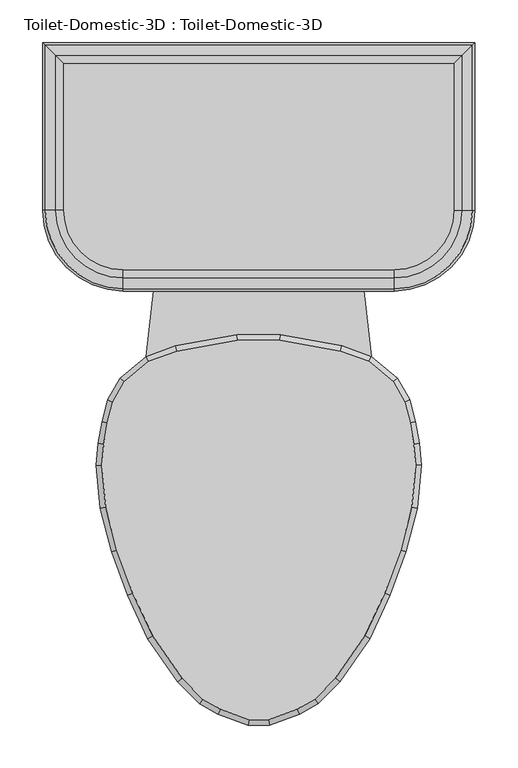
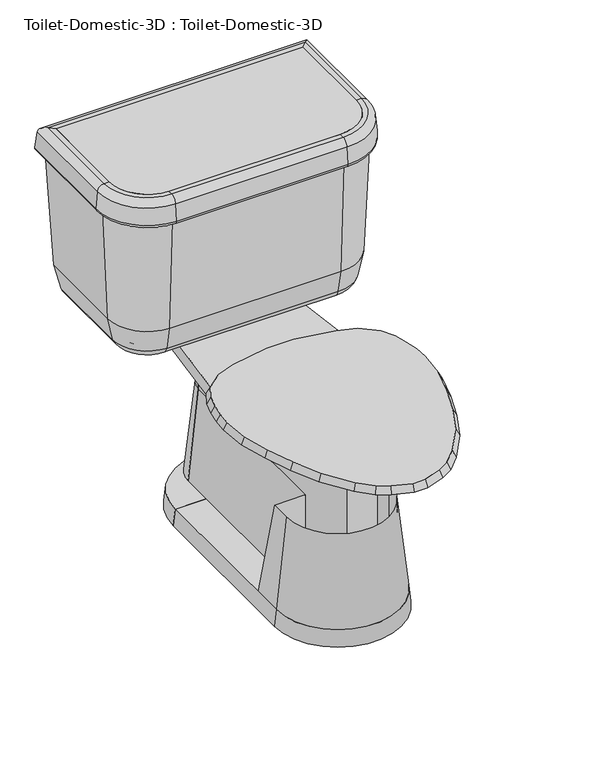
"""IFC4 building model written with IfcOpenShell, lengths in millimetres: flow terminal geometry, Toilet-Domestic-3D : Toilet-Domestic-3D."""

from ifc_helpers import new_model, si_unit, point, frame, frame_2d, origin, place, context, project, spatial, polyline, circle_curve, ellipse_curve, trimmed, segment, composite_curve, outline, extrude, faceted_brep, source, transform, mapped, element, save
from ifc_brep_helpers import plane_surface, cylinder_surface, revolved_surface, advanced_brep


def toilet_domestic_3d_toilet_domestic_3d_29795b61(model_context):
    return source(origin(), model_context, "Body", "SolidModel", [
        advanced_brep(
        [(-117.7636364, 285.75, 0.0), (-38.1, 285.75, 0.0), (-38.1, 285.75, 31.75), (-114.3, 285.75, 31.75), (117.7636364, 285.75, 0.0), (114.3, 285.75, 31.75), (38.1, 285.75, 31.75), (38.1, 285.75, 0.0)],
        [
            (0, 1),
            (1, 2),
            (2, 3),
            (3, 0),
            (4, 5),
            (5, 6),
            (6, 7),
            (7, 4),
            (7, 1, circle_curve(frame((0.0, 285.75, 0.0), z_axis=(0.0, 0.0, 1.0), x_axis=(-1.0, 0.0, 0.0)), 38.1)),
            (0, 4, circle_curve(frame((0.0, 285.75, 0.0), z_axis=(0.0, 0.0, -1.0), x_axis=(-1.0, 0.0, 0.0)), 117.7636364)),
            (6, 2, circle_curve(frame((0.0, 285.75, 31.75), z_axis=(0.0, 0.0, 1.0), x_axis=(-1.0, 0.0, 0.0)), 38.1)),
            (5, 3, circle_curve(frame((0.0, 285.75, 31.75), z_axis=(0.0, 0.0, 1.0), x_axis=(-1.0, 0.0, 0.0)), 114.3)),
        ],
        [
            plane_surface(frame((0.0, 285.75, -304.8), z_axis=(0.0, -1.0, 0.0), x_axis=(-1.0, 0.0, 0.0))),
            plane_surface(frame((0.0, 285.75, -304.8), z_axis=(0.0, -1.0, 0.0), x_axis=(1.0, 0.0, 0.0))),
            plane_surface(frame((0.0, 285.75, 0.0), z_axis=(0.0, 0.0, -1.0), x_axis=(-1.0, 0.0, 0.0))),
            revolved_surface(polyline([(-38.1, 285.75, 0.0), (-38.1, 285.75, 31.75)]), (0.0, 285.75, -304.8), (0.0, 0.0, -1.0)),
            plane_surface(frame((0.0, 285.75, 31.75), z_axis=(0.0, 0.0, 1.0), x_axis=(-1.0, 0.0, 0.0))),
            revolved_surface(polyline([(-114.3, 285.75, 31.75), (-117.7636364, 285.75, 0.0)]), (0.0, 285.75, -304.8), (0.0, 0.0, -1.0)),
        ],
        [
            (0, [[1, 2, 3, 4]]),
            (1, [[5, 6, 7, 8]]),
            (2, [[9, -1, 10, -8]]),
            (3, [[11, -2, -9, -7]]),
            (4, [[12, -3, -11, -6]]),
            (5, [[-10, -4, -12, -5]]),
        ],
    ),
        advanced_brep(
        [(-38.1, 342.9, 206.375), (-57.15, 342.9, 31.75), (-38.1, 342.9, 31.75), (38.1, 342.9, 206.375), (38.1, 342.9, 31.75), (57.15, 342.9, 31.75)],
        [
            (0, 1),
            (1, 2),
            (2, 0),
            (3, 4),
            (4, 5),
            (5, 3),
            (5, 1, circle_curve(frame((0.0, 342.9, 31.75), z_axis=(0.0, 0.0, 1.0), x_axis=(-1.0, 0.0, 0.0)), 57.15)),
            (0, 3, circle_curve(frame((0.0, 342.9, 206.375), z_axis=(0.0, 0.0, -1.0), x_axis=(-1.0, 0.0, 0.0)), 38.1)),
            (4, 2, circle_curve(frame((0.0, 342.9, 31.75), z_axis=(0.0, 0.0, 1.0), x_axis=(-1.0, 0.0, 0.0)), 38.1)),
        ],
        [
            plane_surface(frame((0.0, 342.9, 31.75), z_axis=(0.0, -1.0, 0.0), x_axis=(-1.0, 0.0, 0.0))),
            plane_surface(frame((0.0, 342.9, 31.75), z_axis=(0.0, -1.0, 0.0), x_axis=(1.0, 0.0, 0.0))),
            revolved_surface(polyline([(-38.1, 342.9, 206.375), (-57.15, 342.9, 31.75)]), (0.0, 342.9, 31.75), (0.0, 0.0, -1.0)),
            plane_surface(frame((0.0, 342.9, 31.75), z_axis=(0.0, 0.0, -1.0), x_axis=(-1.0, 0.0, 0.0))),
            revolved_surface(polyline([(-38.1, 342.9, 31.75), (-38.1, 342.9, 206.375)]), (0.0, 342.9, 31.75), (0.0, 0.0, -1.0)),
        ],
        [
            (0, [[1, 2, 3]]),
            (1, [[4, 5, 6]]),
            (2, [[7, -1, 8, -6]]),
            (3, [[9, -2, -7, -5]]),
            (4, [[-8, -3, -9, -4]]),
        ],
    ),
        faceted_brep([(-157.6293435, 97.472128, 400.05), (-171.060664, 73.773864, 400.05), (-177.5851102, 49.4242991, 400.05), (-181.9845715, 24.4737144, 400.05), (-184.125744, 0.0, 400.05), (-179.7950716, -49.4998127, 400.05), (-166.347, -99.688699, 400.05), (-148.0469602, -149.9676451, 400.05), (-124.7045808, -200.0255393, 400.05), (-90.0971582, -249.9125941, 400.05), (-65.691017, -274.3187354, 400.05), (-44.8990862, -286.3229622, 400.05), (-11.5803237, -298.45, 400.05), (11.5803237, -298.45, 400.05), (44.8990862, -286.3229622, 400.05), (65.691017, -274.3187354, 400.05), (90.0971582, -249.9125941, 400.05), (124.7045808, -200.0255393, 400.05), (148.0469602, -149.9676451, 400.05), (166.347, -99.688699, 400.05), (179.7950716, -49.4998127, 400.05), (184.125744, 0.0, 400.05), (181.9845715, 24.4737144, 400.05), (177.5851102, 49.4242991, 400.05), (171.060664, 73.773864, 400.05), (157.6293435, 97.472128, 400.05), (129.0942628, 121.4159037, 400.05), (95.7755003, 133.5429415, 400.05), (24.844447, 146.05, 400.05), (-24.844447, 146.05, 400.05), (-95.7755003, 133.5429415, 400.05), (-129.0942628, 121.4159037, 400.05), (-162.5887836, 101.6, 387.2181453), (-132.3182423, 127.0, 387.2181453), (-97.4252791, 139.7, 387.2181453), (-25.4, 152.4, 387.2181453), (25.4, 152.4, 387.2181453), (97.4252791, 139.7, 387.2181453), (132.3182423, 127.0, 387.2181453), (162.5887836, 101.6, 387.2181453), (176.9845865, 76.2, 387.2181453), (183.790496, 50.8, 387.2181453), (188.2862441, 25.3033453, 387.2181453), (190.5, 0.0, 387.2181453), (186.0724883, -50.6066907, 387.2181453), (172.4088722, -101.6, 387.2181453), (153.9191843, -152.4, 387.2181453), (130.2307553, -203.2, 387.2181453), (94.9900085, -254.0, 387.2181453), (69.5900085, -279.4, 387.2181453), (47.5929632, -292.1, 387.2181453), (12.7, -304.8, 387.2181453), (-12.7, -304.8, 387.2181453), (-47.5929632, -292.1, 387.2181453), (-69.5900085, -279.4, 387.2181453), (-94.9900085, -254.0, 387.2181453), (-130.2307553, -203.2, 387.2181453), (-153.9191843, -152.4, 387.2181453), (-172.4088722, -101.6, 387.2181453), (-186.0724883, -50.6066907, 387.2181453), (-190.5, 0.0, 387.2181453), (-188.2862441, 25.3033453, 387.2181453), (-183.790496, 50.8, 387.2181453), (-176.9845865, 76.2, 387.2181453)], [[[0, 1, 2, 3, 4, 5, 6, 7, 8, 9, 10, 11, 12, 13, 14, 15, 16, 17, 18, 19, 20, 21, 22, 23, 24, 25, 26, 27, 28, 29, 30, 31]], [[32, 33, 34, 35, 36, 37, 38, 39, 40, 41, 42, 43, 44, 45, 46, 47, 48, 49, 50, 51, 52, 53, 54, 55, 56, 57, 58, 59, 60, 61, 62, 63]], [[32, 63, 1, 0]], [[63, 62, 2, 1]], [[62, 61, 3, 2]], [[61, 60, 4, 3]], [[60, 59, 5, 4]], [[59, 58, 6, 5]], [[58, 57, 7, 6]], [[57, 56, 8, 7]], [[56, 55, 9, 8]], [[55, 54, 10, 9]], [[54, 53, 11, 10]], [[53, 52, 12, 11]], [[52, 51, 13, 12]], [[51, 50, 14, 13]], [[50, 49, 15, 14]], [[49, 48, 16, 15]], [[48, 47, 17, 16]], [[47, 46, 18, 17]], [[46, 45, 19, 18]], [[45, 44, 20, 19]], [[44, 43, 21, 20]], [[43, 42, 22, 21]], [[42, 41, 23, 22]], [[41, 40, 24, 23]], [[40, 39, 25, 24]], [[39, 38, 26, 25]], [[38, 37, 27, 26]], [[37, 36, 28, 27]], [[36, 35, 29, 28]], [[35, 34, 30, 29]], [[34, 33, 31, 30]], [[33, 32, 0, 31]]]),
        extrude(outline(composite_curve([segment(polyline([(228.5868869, 469.8868869), (228.5868869, 298.45)]), True, "CONTINUOUS"), segment(trimmed(circle_curve(frame_2d((158.75, 298.45)), 69.8368869), [point((228.5868869, 298.45))], [point((158.75, 228.6131131))], False, "CARTESIAN"), True, "CONTINUOUS"), segment(polyline([(158.75, 228.6131131), (-158.75, 228.6131131)]), True, "CONTINUOUS"), segment(trimmed(circle_curve(frame_2d((-158.75, 298.45)), 69.8368869), [point((-158.75, 228.6131131))], [point((-228.5868869, 298.45))], False, "CARTESIAN"), True, "CONTINUOUS"), segment(polyline([(-228.5868869, 298.45), (-228.5868869, 469.8868869), (228.5868869, 469.8868869)]), True, "CONTINUOUS")], self_intersect=False)), frame((0.0, 0.0, 654.05), z_axis=(0.0, 0.0, 1.0), x_axis=(1.0, 0.0, 0.0)), (0.0, 0.0, 1.0), 50.8),
        extrude(outline(composite_curve([segment(trimmed(circle_curve(frame_2d((0.0, 342.9)), 38.1), [point((-38.1, 342.9))], [point((38.1, 342.9))], False, "CARTESIAN"), True, "CONTINUOUS"), segment(polyline([(38.1, 342.9), (-38.1, 342.9)]), True, "CONTINUOUS")], self_intersect=False)), frame((0.0, 0.0, 206.375), z_axis=(0.0, 0.0, 1.0), x_axis=(1.0, 0.0, 0.0)), (0.0, 0.0, 1.0), 130.175),
        advanced_brep(
        [(177.8, 419.1, 387.2181453), (177.8, 419.1, 374.65), (177.8, 298.45, 374.65), (177.8, 298.45, 387.2181453), (192.8020829, 434.1020829, 387.2181453), (192.8020829, 298.45, 387.2181453), (211.4650931, 452.7650931, 402.4478636), (211.4650931, 298.45, 402.4478636), (218.7732506, 460.0732506, 438.15), (218.7732506, 298.45, 438.15), (228.5868869, 469.8868869, 654.05), (228.5868869, 298.45, 654.05), (228.5868869, 469.8868869, 704.85), (228.5868869, 298.45, 704.85), (237.91817, 479.21817, 704.85), (237.91817, 298.45, 704.85), (250.5698426, 491.8698426, 693.2568779), (250.5698426, 298.45, 693.2568779), (253.3960274, 494.6960274, 660.953439), (253.3960274, 298.45, 660.953439), (247.070191, 488.370191, 654.05), (247.070191, 298.45, 654.05), (241.3, 482.6, 654.05), (241.3, 298.45, 654.05), (231.4863636, 472.7863636, 438.15), (231.4863636, 298.45, 438.15), (222.3416824, 463.6416824, 393.4759963), (222.3416824, 298.45, 393.4759963), (197.8071664, 439.1071664, 374.65), (197.8071664, 298.45, 374.65), (158.75, 279.4, 387.2181453), (158.75, 279.4, 374.65), (158.75, 264.3979171, 387.2181453), (158.75, 245.7349069, 402.4478636), (158.75, 238.4267494, 438.15), (158.75, 228.6131131, 654.05), (158.75, 228.6131131, 704.85), (158.75, 219.28183, 704.85), (158.75, 206.6301574, 693.2568779), (158.75, 203.8039726, 660.953439), (158.75, 210.129809, 654.05), (158.75, 215.9, 654.05), (158.75, 225.7136364, 438.15), (158.75, 234.8583176, 393.4759963), (158.75, 259.3928336, 374.65), (-158.75, 279.4, 374.65), (-158.75, 279.4, 387.2181453), (-158.75, 264.3979171, 387.2181453), (-158.75, 245.7349069, 402.4478636), (-158.75, 238.4267494, 438.15), (-158.75, 228.6131131, 654.05), (-158.75, 228.6131131, 704.85), (-158.75, 219.28183, 704.85), (-158.75, 206.6301574, 693.2568779), (-158.75, 203.8039726, 660.953439), (-158.75, 210.129809, 654.05), (-158.75, 215.9, 654.05), (-158.75, 225.7136364, 438.15), (-158.75, 234.8583176, 393.4759963), (-158.75, 259.3928336, 374.65), (-177.8, 298.45, 387.2181453), (-177.8, 298.45, 374.65), (-192.8020829, 298.45, 387.2181453), (-211.4650931, 298.45, 402.4478636), (-218.7732506, 298.45, 438.15), (-228.5868869, 298.45, 654.05), (-228.5868869, 298.45, 704.85), (-237.91817, 298.45, 704.85), (-250.5698426, 298.45, 693.2568779), (-253.3960274, 298.45, 660.953439), (-247.070191, 298.45, 654.05), (-241.3, 298.45, 654.05), (-231.4863636, 298.45, 438.15), (-222.3416824, 298.45, 393.4759963), (-197.8071664, 298.45, 374.65), (-177.8, 419.1, 374.65), (-177.8, 419.1, 387.2181453), (-192.8020829, 434.1020829, 387.2181453), (-211.4650931, 452.7650931, 402.4478636), (-218.7732506, 460.0732506, 438.15), (-228.5868869, 469.8868869, 654.05), (-228.5868869, 469.8868869, 704.85), (-237.91817, 479.21817, 704.85), (-250.5698426, 491.8698426, 693.2568779), (-253.3960274, 494.6960274, 660.953439), (-247.070191, 488.370191, 654.05), (-241.3, 482.6, 654.05), (-231.4863636, 472.7863636, 438.15), (-222.3416824, 463.6416824, 393.4759963), (-197.8071664, 439.1071664, 374.65)],
        [
            (0, 1),
            (1, 2),
            (2, 3),
            (3, 0),
            (4, 0),
            (3, 5),
            (5, 4),
            (6, 4, ellipse_curve(frame((192.8020829, 434.1020829, 406.2681453), z_axis=(-0.7071067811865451, 0.7071067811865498, 0.0), x_axis=(-0.7071067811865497, -0.7071067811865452, 0.0)), 26.9407684, 19.05)),
            (5, 7, circle_curve(frame((192.8020829, 298.45, 406.2681453), z_axis=(0.0, -1.0, 0.0), x_axis=(1.0, 0.0, 0.0)), 19.05)),
            (7, 6),
            (8, 6),
            (7, 9),
            (9, 8),
            (10, 8),
            (9, 11),
            (11, 10),
            (12, 10),
            (11, 13),
            (13, 12),
            (14, 12),
            (13, 15),
            (15, 14),
            (16, 14, ellipse_curve(frame((237.91817, 479.21817, 692.15), z_axis=(0.7071067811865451, -0.7071067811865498, 0.0), x_axis=(0.7071067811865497, 0.7071067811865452, 0.0)), 17.9605122, 12.7)),
            (15, 17, circle_curve(frame((237.91817, 298.45, 692.15), z_axis=(0.0, 1.0, 0.0), x_axis=(1.0, 0.0, 0.0)), 12.7)),
            (17, 16),
            (18, 16),
            (17, 19),
            (19, 18),
            (20, 18, ellipse_curve(frame((247.070191, 488.370191, 660.4), z_axis=(0.7071067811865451, -0.7071067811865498, 0.0), x_axis=(0.7071067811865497, 0.7071067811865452, 0.0)), 8.9802561, 6.35)),
            (19, 21, circle_curve(frame((247.070191, 298.45, 660.4), z_axis=(0.0, 1.0, 0.0), x_axis=(1.0, 0.0, 0.0)), 6.35)),
            (21, 20),
            (22, 20),
            (21, 23),
            (23, 22),
            (24, 22),
            (23, 25),
            (25, 24),
            (26, 24),
            (25, 27),
            (27, 26),
            (28, 26, ellipse_curve(frame((197.8071664, 439.1071664, 400.05), z_axis=(0.7071067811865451, -0.7071067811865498, 0.0), x_axis=(0.7071067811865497, 0.7071067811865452, 0.0)), 35.9210245, 25.4)),
            (27, 29, circle_curve(frame((197.8071664, 298.45, 400.05), z_axis=(0.0, 1.0, 0.0), x_axis=(1.0, 0.0, 0.0)), 25.4)),
            (29, 28),
            (1, 28),
            (29, 2),
            (30, 3, circle_curve(frame((158.75, 298.45, 387.2181453), z_axis=(0.0, 0.0, 1.0), x_axis=(1.0, 0.0, 0.0)), 19.05)),
            (2, 31, circle_curve(frame((158.75, 298.45, 374.65), z_axis=(0.0, 0.0, -1.0), x_axis=(1.0, 0.0, 0.0)), 19.05)),
            (31, 30),
            (32, 5, circle_curve(frame((158.75, 298.45, 387.2181453), z_axis=(0.0, 0.0, 1.0), x_axis=(1.0, 0.0, 0.0)), 34.0520829)),
            (30, 32),
            (33, 7, circle_curve(frame((158.75, 298.45, 402.4478636), z_axis=(0.0, 0.0, 1.0), x_axis=(1.0, 0.0, 0.0)), 52.7150931)),
            (32, 33, circle_curve(frame((158.75, 264.3979171, 406.2681453), z_axis=(-1.0, 0.0, 0.0), x_axis=(0.0, -1.0, 0.0)), 19.05)),
            (34, 9, circle_curve(frame((158.75, 298.45, 438.15), z_axis=(0.0, 0.0, 1.0), x_axis=(1.0, 0.0, 0.0)), 60.0232506)),
            (33, 34),
            (35, 11, circle_curve(frame((158.75, 298.45, 654.05), z_axis=(0.0, 0.0, 1.0), x_axis=(1.0, 0.0, 0.0)), 69.8368869)),
            (34, 35),
            (36, 13, circle_curve(frame((158.75, 298.45, 704.85), z_axis=(0.0, 0.0, 1.0), x_axis=(1.0, 0.0, 0.0)), 69.8368869)),
            (35, 36),
            (37, 15, circle_curve(frame((158.75, 298.45, 704.85), z_axis=(0.0, 0.0, 1.0), x_axis=(1.0, 0.0, 0.0)), 79.16817)),
            (36, 37),
            (38, 17, circle_curve(frame((158.75, 298.45, 693.2568779), z_axis=(0.0, 0.0, 1.0), x_axis=(1.0, 0.0, 0.0)), 91.8198426)),
            (37, 38, circle_curve(frame((158.75, 219.28183, 692.15), z_axis=(1.0, 0.0, 0.0), x_axis=(0.0, -1.0, 0.0)), 12.7)),
            (39, 19, circle_curve(frame((158.75, 298.45, 660.953439), z_axis=(0.0, 0.0, 1.0), x_axis=(1.0, 0.0, 0.0)), 94.6460274)),
            (38, 39),
            (40, 21, circle_curve(frame((158.75, 298.45, 654.05), z_axis=(0.0, 0.0, 1.0), x_axis=(1.0, 0.0, 0.0)), 88.320191)),
            (39, 40, circle_curve(frame((158.75, 210.129809, 660.4), z_axis=(1.0, 0.0, 0.0), x_axis=(0.0, -1.0, 0.0)), 6.35)),
            (41, 23, circle_curve(frame((158.75, 298.45, 654.05), z_axis=(0.0, 0.0, 1.0), x_axis=(1.0, 0.0, 0.0)), 82.55)),
            (40, 41),
            (42, 25, circle_curve(frame((158.75, 298.45, 438.15), z_axis=(0.0, 0.0, 1.0), x_axis=(1.0, 0.0, 0.0)), 72.7363636)),
            (41, 42),
            (43, 27, circle_curve(frame((158.75, 298.45, 393.4759963), z_axis=(0.0, 0.0, 1.0), x_axis=(1.0, 0.0, 0.0)), 63.5916824)),
            (42, 43),
            (44, 29, circle_curve(frame((158.75, 298.45, 374.65), z_axis=(0.0, 0.0, 1.0), x_axis=(1.0, 0.0, 0.0)), 39.0571664)),
            (43, 44, circle_curve(frame((158.75, 259.3928336, 400.05), z_axis=(1.0, 0.0, 0.0), x_axis=(0.0, -1.0, 0.0)), 25.4)),
            (44, 31),
            (31, 45),
            (45, 46),
            (46, 30),
            (46, 47),
            (47, 32),
            (47, 48, circle_curve(frame((-158.75, 264.3979171, 406.2681453), z_axis=(-1.0, 0.0, 0.0), x_axis=(0.0, -1.0, 0.0)), 19.05)),
            (48, 33),
            (48, 49),
            (49, 34),
            (49, 50),
            (50, 35),
            (50, 51),
            (51, 36),
            (51, 52),
            (52, 37),
            (52, 53, circle_curve(frame((-158.75, 219.28183, 692.15), z_axis=(1.0, 0.0, 0.0), x_axis=(0.0, -1.0, 0.0)), 12.7)),
            (53, 38),
            (53, 54),
            (54, 39),
            (54, 55, circle_curve(frame((-158.75, 210.129809, 660.4), z_axis=(1.0, 0.0, 0.0), x_axis=(0.0, -1.0, 0.0)), 6.35)),
            (55, 40),
            (55, 56),
            (56, 41),
            (56, 57),
            (57, 42),
            (57, 58),
            (58, 43),
            (58, 59, circle_curve(frame((-158.75, 259.3928336, 400.05), z_axis=(1.0, 0.0, 0.0), x_axis=(0.0, -1.0, 0.0)), 25.4)),
            (59, 44),
            (59, 45),
            (60, 46, circle_curve(frame((-158.75, 298.45, 387.2181453), z_axis=(0.0, 0.0, 1.0), x_axis=(0.0, -1.0, 0.0)), 19.05)),
            (45, 61, circle_curve(frame((-158.75, 298.45, 374.65), z_axis=(0.0, 0.0, -1.0), x_axis=(0.0, -1.0, 0.0)), 19.05)),
            (61, 60),
            (62, 47, circle_curve(frame((-158.75, 298.45, 387.2181453), z_axis=(0.0, 0.0, 1.0), x_axis=(0.0, -1.0, 0.0)), 34.0520829)),
            (60, 62),
            (63, 48, circle_curve(frame((-158.75, 298.45, 402.4478636), z_axis=(0.0, 0.0, 1.0), x_axis=(0.0, -1.0, 0.0)), 52.7150931)),
            (62, 63, circle_curve(frame((-192.8020829, 298.45, 406.2681453), z_axis=(0.0, 1.0, 0.0), x_axis=(-1.0, 0.0, 0.0)), 19.05)),
            (64, 49, circle_curve(frame((-158.75, 298.45, 438.15), z_axis=(0.0, 0.0, 1.0), x_axis=(0.0, -1.0, 0.0)), 60.0232506)),
            (63, 64),
            (65, 50, circle_curve(frame((-158.75, 298.45, 654.05), z_axis=(0.0, 0.0, 1.0), x_axis=(0.0, -1.0, 0.0)), 69.8368869)),
            (64, 65),
            (66, 51, circle_curve(frame((-158.75, 298.45, 704.85), z_axis=(0.0, 0.0, 1.0), x_axis=(0.0, -1.0, 0.0)), 69.8368869)),
            (65, 66),
            (67, 52, circle_curve(frame((-158.75, 298.45, 704.85), z_axis=(0.0, 0.0, 1.0), x_axis=(0.0, -1.0, 0.0)), 79.16817)),
            (66, 67),
            (68, 53, circle_curve(frame((-158.75, 298.45, 693.2568779), z_axis=(0.0, 0.0, 1.0), x_axis=(0.0, -1.0, 0.0)), 91.8198426)),
            (67, 68, circle_curve(frame((-237.91817, 298.45, 692.15), z_axis=(0.0, -1.0, 0.0), x_axis=(-1.0, 0.0, 0.0)), 12.7)),
            (69, 54, circle_curve(frame((-158.75, 298.45, 660.953439), z_axis=(0.0, 0.0, 1.0), x_axis=(0.0, -1.0, 0.0)), 94.6460274)),
            (68, 69),
            (70, 55, circle_curve(frame((-158.75, 298.45, 654.05), z_axis=(0.0, 0.0, 1.0), x_axis=(0.0, -1.0, 0.0)), 88.320191)),
            (69, 70, circle_curve(frame((-247.070191, 298.45, 660.4), z_axis=(0.0, -1.0, 0.0), x_axis=(-1.0, 0.0, 0.0)), 6.35)),
            (71, 56, circle_curve(frame((-158.75, 298.45, 654.05), z_axis=(0.0, 0.0, 1.0), x_axis=(0.0, -1.0, 0.0)), 82.55)),
            (70, 71),
            (72, 57, circle_curve(frame((-158.75, 298.45, 438.15), z_axis=(0.0, 0.0, 1.0), x_axis=(0.0, -1.0, 0.0)), 72.7363636)),
            (71, 72),
            (73, 58, circle_curve(frame((-158.75, 298.45, 393.4759963), z_axis=(0.0, 0.0, 1.0), x_axis=(0.0, -1.0, 0.0)), 63.5916824)),
            (72, 73),
            (74, 59, circle_curve(frame((-158.75, 298.45, 374.65), z_axis=(0.0, 0.0, 1.0), x_axis=(0.0, -1.0, 0.0)), 39.0571664)),
            (73, 74, circle_curve(frame((-197.8071664, 298.45, 400.05), z_axis=(0.0, -1.0, 0.0), x_axis=(-1.0, 0.0, 0.0)), 25.4)),
            (74, 61),
            (61, 75),
            (75, 76),
            (76, 60),
            (76, 77),
            (77, 62),
            (77, 78, ellipse_curve(frame((-192.8020829, 434.1020829, 406.2681453), z_axis=(0.7071067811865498, 0.7071067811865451, 0.0), x_axis=(-0.7071067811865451, 0.70710678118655, 0.0)), 26.9407684, 19.05)),
            (78, 63),
            (78, 79),
            (79, 64),
            (79, 80),
            (80, 65),
            (80, 81),
            (81, 66),
            (81, 82),
            (82, 67),
            (82, 83, ellipse_curve(frame((-237.91817, 479.21817, 692.15), z_axis=(-0.7071067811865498, -0.7071067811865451, 0.0), x_axis=(0.7071067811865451, -0.70710678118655, 0.0)), 17.9605122, 12.7)),
            (83, 68),
            (83, 84),
            (84, 69),
            (84, 85, ellipse_curve(frame((-247.070191, 488.370191, 660.4), z_axis=(-0.7071067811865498, -0.7071067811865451, 0.0), x_axis=(0.7071067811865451, -0.70710678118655, 0.0)), 8.9802561, 6.35)),
            (85, 70),
            (85, 86),
            (86, 71),
            (86, 87),
            (87, 72),
            (87, 88),
            (88, 73),
            (88, 89, ellipse_curve(frame((-197.8071664, 439.1071664, 400.05), z_axis=(-0.7071067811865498, -0.7071067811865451, 0.0), x_axis=(0.7071067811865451, -0.70710678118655, 0.0)), 35.9210245, 25.4)),
            (89, 74),
            (89, 75),
            (75, 1),
            (0, 76),
            (4, 77),
            (6, 78),
            (8, 79),
            (10, 80),
            (12, 81),
            (14, 82),
            (16, 83),
            (18, 84),
            (20, 85),
            (22, 86),
            (24, 87),
            (26, 88),
            (28, 89),
        ],
        [
            plane_surface(frame((177.8, 419.1, 374.65), z_axis=(-1.0, 0.0, 0.0), x_axis=(0.0, -1.0, 0.0))),
            plane_surface(frame((177.8, 419.1, 387.2181453), z_axis=(0.0, 0.0, 1.0), x_axis=(0.0, -1.0, 0.0))),
            revolved_surface(polyline([(211.8520829, 298.45, 406.2681453), (211.8520829, 453.1520829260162, 406.2681453)]), (192.8020829, 419.1, 406.2681453), (0.0, -1.0, 0.0)),
            plane_surface(frame((211.4650931, 452.7650931, 402.4478636), z_axis=(-0.9796855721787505, 0.0, 0.2005397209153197), x_axis=(0.0, -1.0, 0.0))),
            plane_surface(frame((218.7732506, 460.0732506, 438.15), z_axis=(-0.9989685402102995, 0.0, 0.045407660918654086), x_axis=(0.0, -1.0, 0.0))),
            plane_surface(frame((228.5868869, 469.8868869, 654.05), z_axis=(-1.0, 0.0, 0.0), x_axis=(0.0, -1.0, 0.0))),
            plane_surface(frame((228.5868869, 469.8868869, 704.85), z_axis=(0.0, 0.0, 1.0), x_axis=(0.0, -1.0, 0.0))),
            cylinder_surface(frame((237.91817, 419.1, 692.15), z_axis=(0.0, 1.0, 0.0), x_axis=(1.0, 0.0, 0.0)), 12.7),
            plane_surface(frame((250.5698426, 491.8698426, 693.2568779), z_axis=(0.9961946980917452, 0.0, 0.08715574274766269), x_axis=(0.0, -1.0, 0.0))),
            cylinder_surface(frame((247.070191, 419.1, 660.4), z_axis=(0.0, 1.0, 0.0), x_axis=(1.0, 0.0, 0.0)), 6.35),
            plane_surface(frame((247.070191, 488.370191, 654.05), z_axis=(0.0, 0.0, -1.0), x_axis=(0.0, -1.0, 0.0))),
            plane_surface(frame((241.3, 482.6, 654.05), z_axis=(0.9989685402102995, 0.0, -0.04540766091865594), x_axis=(0.0, -1.0, 0.0))),
            plane_surface(frame((231.4863636, 472.7863636, 438.15), z_axis=(0.9796855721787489, 0.0, -0.20053972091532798), x_axis=(0.0, -1.0, 0.0))),
            cylinder_surface(frame((197.8071664, 419.1, 400.05), z_axis=(0.0, 1.0, 0.0), x_axis=(1.0, 0.0, 0.0)), 25.4),
            plane_surface(frame((197.8071664, 439.1071664, 374.65), z_axis=(0.0, 0.0, -1.0), x_axis=(0.0, -1.0, 0.0))),
            revolved_surface(polyline([(177.8, 298.45, 374.65), (177.8, 298.45, 387.2181453)]), (158.75, 298.45, 0.0), (0.0, 0.0, -1.0)),
            plane_surface(frame((158.75, 298.45, 387.2181453), z_axis=(0.0, 0.0, 1.0), x_axis=(1.0, 0.0, 0.0))),
            revolved_surface(trimmed(ellipse_curve(frame((192.8020829, 298.45, 406.2681453), z_axis=(0.0, -1.0, 0.0), x_axis=(1.0, 0.0, 0.0)), 19.05, 19.05), [point((192.8020829, 298.45, 387.2181453))], [point((211.4650931, 298.45, 402.4478636))], True, "CARTESIAN"), (158.75, 298.45, 0.0), (0.0, 0.0, -1.0)),
            revolved_surface(polyline([(211.4650931, 298.45, 402.4478636), (218.7732506, 298.45, 438.15)]), (158.75, 298.45, 0.0), (0.0, 0.0, -1.0)),
            revolved_surface(polyline([(218.7732506, 298.45, 438.15), (228.5868869, 298.45, 654.05)]), (158.75, 298.45, 0.0), (0.0, 0.0, -1.0)),
            revolved_surface(polyline([(228.5868869, 298.45, 654.05), (228.5868869, 298.45, 704.85)]), (158.75, 298.45, 0.0), (0.0, 0.0, -1.0)),
            plane_surface(frame((158.75, 298.45, 704.85), z_axis=(0.0, 0.0, 1.0), x_axis=(1.0, 0.0, 0.0))),
            revolved_surface(trimmed(ellipse_curve(frame((237.91817, 298.45, 692.15), z_axis=(0.0, 1.0, 0.0), x_axis=(1.0, 0.0, 0.0)), 12.7, 12.7), [point((237.91817, 298.45, 704.85))], [point((250.5698426, 298.45, 693.2568779))], True, "CARTESIAN"), (158.75, 298.45, 0.0), (0.0, 0.0, -1.0)),
            revolved_surface(polyline([(250.5698426, 298.45, 693.2568779), (253.3960274, 298.45, 660.953439)]), (158.75, 298.45, 0.0), (0.0, 0.0, -1.0)),
            revolved_surface(trimmed(ellipse_curve(frame((247.070191, 298.45, 660.4), z_axis=(0.0, 1.0, 0.0), x_axis=(1.0, 0.0, 0.0)), 6.35, 6.35), [point((253.3960274, 298.45, 660.953439))], [point((247.070191, 298.45, 654.05))], True, "CARTESIAN"), (158.75, 298.45, 0.0), (0.0, 0.0, -1.0)),
            plane_surface(frame((158.75, 298.45, 654.05), z_axis=(0.0, 0.0, -1.0), x_axis=(1.0, 0.0, 0.0))),
            revolved_surface(polyline([(241.3, 298.45, 654.05), (231.4863636, 298.45, 438.15)]), (158.75, 298.45, 0.0), (0.0, 0.0, -1.0)),
            revolved_surface(polyline([(231.4863636, 298.45, 438.15), (222.3416824, 298.45, 393.4759963)]), (158.75, 298.45, 0.0), (0.0, 0.0, -1.0)),
            revolved_surface(trimmed(ellipse_curve(frame((197.8071664, 298.45, 400.05), z_axis=(0.0, 1.0, 0.0), x_axis=(1.0, 0.0, 0.0)), 25.4, 25.4), [point((222.3416824, 298.45, 393.4759963))], [point((197.8071664, 298.45, 374.65))], True, "CARTESIAN"), (158.75, 298.45, 0.0), (0.0, 0.0, -1.0)),
            plane_surface(frame((158.75, 298.45, 374.65), z_axis=(0.0, 0.0, -1.0), x_axis=(1.0, 0.0, 0.0))),
            plane_surface(frame((158.75, 279.4, 374.65), z_axis=(0.0, 1.0, 0.0), x_axis=(-1.0, 0.0, 0.0))),
            plane_surface(frame((158.75, 279.4, 387.2181453), z_axis=(0.0, 0.0, 1.0), x_axis=(-1.0, 0.0, 0.0))),
            revolved_surface(polyline([(-158.75, 245.34791709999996, 406.2681453), (158.75, 245.34791709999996, 406.2681453)]), (158.75, 264.3979171, 406.2681453), (-1.0, 0.0, 0.0)),
            plane_surface(frame((158.75, 245.7349069, 402.4478636), z_axis=(0.0, 0.9796855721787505, 0.2005397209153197), x_axis=(-1.0, 0.0, 0.0))),
            plane_surface(frame((158.75, 238.4267494, 438.15), z_axis=(0.0, 0.9989685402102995, 0.045407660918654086), x_axis=(-1.0, 0.0, 0.0))),
            plane_surface(frame((158.75, 228.6131131, 654.05), z_axis=(0.0, 1.0, 0.0), x_axis=(-1.0, 0.0, 0.0))),
            plane_surface(frame((158.75, 228.6131131, 704.85), z_axis=(0.0, 0.0, 1.0), x_axis=(-1.0, 0.0, 0.0))),
            cylinder_surface(frame((158.75, 219.28183, 692.15), z_axis=(1.0, 0.0, 0.0), x_axis=(0.0, -1.0, 0.0)), 12.7),
            plane_surface(frame((158.75, 206.6301574, 693.2568779), z_axis=(0.0, -0.9961946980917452, 0.08715574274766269), x_axis=(-1.0, 0.0, 0.0))),
            cylinder_surface(frame((158.75, 210.129809, 660.4), z_axis=(1.0, 0.0, 0.0), x_axis=(0.0, -1.0, 0.0)), 6.35),
            plane_surface(frame((158.75, 210.129809, 654.05), z_axis=(0.0, 0.0, -1.0), x_axis=(-1.0, 0.0, 0.0))),
            plane_surface(frame((158.75, 215.9, 654.05), z_axis=(0.0, -0.9989685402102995, -0.04540766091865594), x_axis=(-1.0, 0.0, 0.0))),
            plane_surface(frame((158.75, 225.7136364, 438.15), z_axis=(0.0, -0.9796855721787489, -0.20053972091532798), x_axis=(-1.0, 0.0, 0.0))),
            cylinder_surface(frame((158.75, 259.3928336, 400.05), z_axis=(1.0, 0.0, 0.0), x_axis=(0.0, -1.0, 0.0)), 25.4),
            plane_surface(frame((158.75, 259.3928336, 374.65), z_axis=(0.0, 0.0, -1.0), x_axis=(-1.0, 0.0, 0.0))),
            revolved_surface(polyline([(-158.75, 279.4, 374.65), (-158.75, 279.4, 387.2181453)]), (-158.75, 298.45, 0.0), (0.0, 0.0, -1.0)),
            plane_surface(frame((-158.75, 298.45, 387.2181453), z_axis=(0.0, 0.0, 1.0), x_axis=(0.0, -1.0, 0.0))),
            revolved_surface(trimmed(ellipse_curve(frame((-158.75, 264.3979171, 406.2681453), z_axis=(-1.0, 0.0, 0.0), x_axis=(0.0, -1.0, 0.0)), 19.05, 19.05), [point((-158.75, 264.3979171, 387.2181453))], [point((-158.75, 245.7349069, 402.4478636))], True, "CARTESIAN"), (-158.75, 298.45, 0.0), (0.0, 0.0, -1.0)),
            revolved_surface(polyline([(-158.75, 245.7349069, 402.4478636), (-158.75, 238.4267494, 438.15)]), (-158.75, 298.45, 0.0), (0.0, 0.0, -1.0)),
            revolved_surface(polyline([(-158.75, 238.4267494, 438.15), (-158.75, 228.6131131, 654.05)]), (-158.75, 298.45, 0.0), (0.0, 0.0, -1.0)),
            revolved_surface(polyline([(-158.75, 228.6131131, 654.05), (-158.75, 228.6131131, 704.85)]), (-158.75, 298.45, 0.0), (0.0, 0.0, -1.0)),
            plane_surface(frame((-158.75, 298.45, 704.85), z_axis=(0.0, 0.0, 1.0), x_axis=(0.0, -1.0, 0.0))),
            revolved_surface(trimmed(ellipse_curve(frame((-158.75, 219.28183, 692.15), z_axis=(1.0, 0.0, 0.0), x_axis=(0.0, -1.0, 0.0)), 12.7, 12.7), [point((-158.75, 219.28183, 704.85))], [point((-158.75, 206.6301574, 693.2568779))], True, "CARTESIAN"), (-158.75, 298.45, 0.0), (0.0, 0.0, -1.0)),
            revolved_surface(polyline([(-158.75, 206.6301574, 693.2568779), (-158.75, 203.8039726, 660.953439)]), (-158.75, 298.45, 0.0), (0.0, 0.0, -1.0)),
            revolved_surface(trimmed(ellipse_curve(frame((-158.75, 210.129809, 660.4), z_axis=(1.0, 0.0, 0.0), x_axis=(0.0, -1.0, 0.0)), 6.35, 6.35), [point((-158.75, 203.8039726, 660.953439))], [point((-158.75, 210.129809, 654.05))], True, "CARTESIAN"), (-158.75, 298.45, 0.0), (0.0, 0.0, -1.0)),
            plane_surface(frame((-158.75, 298.45, 654.05), z_axis=(0.0, 0.0, -1.0), x_axis=(0.0, -1.0, 0.0))),
            revolved_surface(polyline([(-158.75, 215.9, 654.05), (-158.75, 225.7136364, 438.15)]), (-158.75, 298.45, 0.0), (0.0, 0.0, -1.0)),
            revolved_surface(polyline([(-158.75, 225.7136364, 438.15), (-158.75, 234.8583176, 393.4759963)]), (-158.75, 298.45, 0.0), (0.0, 0.0, -1.0)),
            revolved_surface(trimmed(ellipse_curve(frame((-158.75, 259.3928336, 400.05), z_axis=(1.0, 0.0, 0.0), x_axis=(0.0, -1.0, 0.0)), 25.4, 25.4), [point((-158.75, 234.8583176, 393.4759963))], [point((-158.75, 259.3928336, 374.65))], True, "CARTESIAN"), (-158.75, 298.45, 0.0), (0.0, 0.0, -1.0)),
            plane_surface(frame((-158.75, 298.45, 374.65), z_axis=(0.0, 0.0, -1.0), x_axis=(0.0, -1.0, 0.0))),
            plane_surface(frame((-177.8, 298.45, 374.65), z_axis=(1.0, 0.0, 0.0), x_axis=(0.0, 1.0, 0.0))),
            plane_surface(frame((-177.8, 298.45, 387.2181453), z_axis=(0.0, 0.0, 1.0), x_axis=(0.0, 1.0, 0.0))),
            revolved_surface(polyline([(-211.8520829, 453.15208292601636, 406.2681453), (-211.8520829, 298.45, 406.2681453)]), (-192.8020829, 298.45, 406.2681453), (0.0, 1.0, 0.0)),
            plane_surface(frame((-211.4650931, 298.45, 402.4478636), z_axis=(0.9796855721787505, 0.0, 0.2005397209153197), x_axis=(0.0, 1.0, 0.0))),
            plane_surface(frame((-218.7732506, 298.45, 438.15), z_axis=(0.9989685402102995, 0.0, 0.045407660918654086), x_axis=(0.0, 1.0, 0.0))),
            plane_surface(frame((-228.5868869, 298.45, 654.05), z_axis=(1.0, 0.0, 0.0), x_axis=(0.0, 1.0, 0.0))),
            plane_surface(frame((-228.5868869, 298.45, 704.85), z_axis=(0.0, 0.0, 1.0), x_axis=(0.0, 1.0, 0.0))),
            cylinder_surface(frame((-237.91817, 298.45, 692.15), z_axis=(0.0, -1.0, 0.0), x_axis=(-1.0, 0.0, 0.0)), 12.7),
            plane_surface(frame((-250.5698426, 298.45, 693.2568779), z_axis=(-0.9961946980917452, 0.0, 0.08715574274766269), x_axis=(0.0, 1.0, 0.0))),
            cylinder_surface(frame((-247.070191, 298.45, 660.4), z_axis=(0.0, -1.0, 0.0), x_axis=(-1.0, 0.0, 0.0)), 6.35),
            plane_surface(frame((-247.070191, 298.45, 654.05), z_axis=(0.0, 0.0, -1.0), x_axis=(0.0, 1.0, 0.0))),
            plane_surface(frame((-241.3, 298.45, 654.05), z_axis=(-0.9989685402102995, 0.0, -0.04540766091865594), x_axis=(0.0, 1.0, 0.0))),
            plane_surface(frame((-231.4863636, 298.45, 438.15), z_axis=(-0.9796855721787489, 0.0, -0.20053972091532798), x_axis=(0.0, 1.0, 0.0))),
            cylinder_surface(frame((-197.8071664, 298.45, 400.05), z_axis=(0.0, -1.0, 0.0), x_axis=(-1.0, 0.0, 0.0)), 25.4),
            plane_surface(frame((-197.8071664, 298.45, 374.65), z_axis=(0.0, 0.0, -1.0), x_axis=(0.0, 1.0, 0.0))),
            plane_surface(frame((-177.8, 419.1, 374.65), z_axis=(0.0, -1.0, 0.0), x_axis=(1.0, 0.0, 0.0))),
            plane_surface(frame((-177.8, 419.1, 387.2181453), z_axis=(0.0, 0.0, 1.0), x_axis=(1.0, 0.0, 0.0))),
            revolved_surface(polyline([(211.85208292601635, 453.15208290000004, 406.2681453), (-211.85208292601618, 453.15208290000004, 406.2681453)]), (-177.8, 434.1020829, 406.2681453), (1.0, 0.0, 0.0)),
            plane_surface(frame((-211.4650931, 452.7650931, 402.4478636), z_axis=(0.0, -0.9796855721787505, 0.2005397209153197), x_axis=(1.0, 0.0, 0.0))),
            plane_surface(frame((-218.7732506, 460.0732506, 438.15), z_axis=(0.0, -0.9989685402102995, 0.045407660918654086), x_axis=(1.0, 0.0, 0.0))),
            plane_surface(frame((-228.5868869, 469.8868869, 654.05), z_axis=(0.0, -1.0, 0.0), x_axis=(1.0, 0.0, 0.0))),
            plane_surface(frame((-228.5868869, 469.8868869, 704.85), z_axis=(0.0, 0.0, 1.0), x_axis=(1.0, 0.0, 0.0))),
            cylinder_surface(frame((-177.8, 479.21817, 692.15), z_axis=(-1.0, 0.0, 0.0), x_axis=(0.0, 1.0, 0.0)), 12.7),
            plane_surface(frame((-250.5698426, 491.8698426, 693.2568779), z_axis=(0.0, 0.9961946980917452, 0.08715574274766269), x_axis=(1.0, 0.0, 0.0))),
            cylinder_surface(frame((-177.8, 488.370191, 660.4), z_axis=(-1.0, 0.0, 0.0), x_axis=(0.0, 1.0, 0.0)), 6.35),
            plane_surface(frame((-247.070191, 488.370191, 654.05), z_axis=(0.0, 0.0, -1.0), x_axis=(1.0, 0.0, 0.0))),
            plane_surface(frame((-241.3, 482.6, 654.05), z_axis=(0.0, 0.9989685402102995, -0.04540766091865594), x_axis=(1.0, 0.0, 0.0))),
            plane_surface(frame((-231.4863636, 472.7863636, 438.15), z_axis=(0.0, 0.9796855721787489, -0.20053972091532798), x_axis=(1.0, 0.0, 0.0))),
            cylinder_surface(frame((-177.8, 439.1071664, 400.05), z_axis=(-1.0, 0.0, 0.0), x_axis=(0.0, 1.0, 0.0)), 25.4),
            plane_surface(frame((-197.8071664, 439.1071664, 374.65), z_axis=(0.0, 0.0, -1.0), x_axis=(1.0, 0.0, 0.0))),
        ],
        [
            (0, [[1, 2, 3, 4]]),
            (1, [[5, -4, 6, 7]]),
            (2, [[8, -7, 9, 10]]),
            (3, [[11, -10, 12, 13]]),
            (4, [[14, -13, 15, 16]]),
            (5, [[17, -16, 18, 19]]),
            (6, [[20, -19, 21, 22]]),
            (7, [[23, -22, 24, 25]]),
            (8, [[26, -25, 27, 28]]),
            (9, [[29, -28, 30, 31]]),
            (10, [[32, -31, 33, 34]]),
            (11, [[35, -34, 36, 37]]),
            (12, [[38, -37, 39, 40]]),
            (13, [[41, -40, 42, 43]]),
            (14, [[44, -43, 45, -2]]),
            (15, [[46, -3, 47, 48]]),
            (16, [[49, -6, -46, 50]]),
            (17, [[51, -9, -49, 52]]),
            (18, [[53, -12, -51, 54]]),
            (19, [[55, -15, -53, 56]]),
            (20, [[57, -18, -55, 58]]),
            (21, [[59, -21, -57, 60]]),
            (22, [[61, -24, -59, 62]]),
            (23, [[63, -27, -61, 64]]),
            (24, [[65, -30, -63, 66]]),
            (25, [[67, -33, -65, 68]]),
            (26, [[69, -36, -67, 70]]),
            (27, [[71, -39, -69, 72]]),
            (28, [[73, -42, -71, 74]]),
            (29, [[-47, -45, -73, 75]]),
            (30, [[-48, 76, 77, 78]]),
            (31, [[-50, -78, 79, 80]]),
            (32, [[-52, -80, 81, 82]]),
            (33, [[-54, -82, 83, 84]]),
            (34, [[-56, -84, 85, 86]]),
            (35, [[-58, -86, 87, 88]]),
            (36, [[-60, -88, 89, 90]]),
            (37, [[-62, -90, 91, 92]]),
            (38, [[-64, -92, 93, 94]]),
            (39, [[-66, -94, 95, 96]]),
            (40, [[-68, -96, 97, 98]]),
            (41, [[-70, -98, 99, 100]]),
            (42, [[-72, -100, 101, 102]]),
            (43, [[-74, -102, 103, 104]]),
            (44, [[-75, -104, 105, -76]]),
            (45, [[106, -77, 107, 108]]),
            (46, [[109, -79, -106, 110]]),
            (47, [[111, -81, -109, 112]]),
            (48, [[113, -83, -111, 114]]),
            (49, [[115, -85, -113, 116]]),
            (50, [[117, -87, -115, 118]]),
            (51, [[119, -89, -117, 120]]),
            (52, [[121, -91, -119, 122]]),
            (53, [[123, -93, -121, 124]]),
            (54, [[125, -95, -123, 126]]),
            (55, [[127, -97, -125, 128]]),
            (56, [[129, -99, -127, 130]]),
            (57, [[131, -101, -129, 132]]),
            (58, [[133, -103, -131, 134]]),
            (59, [[-107, -105, -133, 135]]),
            (60, [[-108, 136, 137, 138]]),
            (61, [[-110, -138, 139, 140]]),
            (62, [[-112, -140, 141, 142]]),
            (63, [[-114, -142, 143, 144]]),
            (64, [[-116, -144, 145, 146]]),
            (65, [[-118, -146, 147, 148]]),
            (66, [[-120, -148, 149, 150]]),
            (67, [[-122, -150, 151, 152]]),
            (68, [[-124, -152, 153, 154]]),
            (69, [[-126, -154, 155, 156]]),
            (70, [[-128, -156, 157, 158]]),
            (71, [[-130, -158, 159, 160]]),
            (72, [[-132, -160, 161, 162]]),
            (73, [[-134, -162, 163, 164]]),
            (74, [[-135, -164, 165, -136]]),
            (75, [[-137, 166, -1, 167]]),
            (76, [[-139, -167, -5, 168]]),
            (77, [[-141, -168, -8, 169]]),
            (78, [[-143, -169, -11, 170]]),
            (79, [[-145, -170, -14, 171]]),
            (80, [[-147, -171, -17, 172]]),
            (81, [[-149, -172, -20, 173]]),
            (82, [[-151, -173, -23, 174]]),
            (83, [[-153, -174, -26, 175]]),
            (84, [[-155, -175, -29, 176]]),
            (85, [[-157, -176, -32, 177]]),
            (86, [[-159, -177, -35, 178]]),
            (87, [[-161, -178, -38, 179]]),
            (88, [[-163, -179, -41, 180]]),
            (89, [[-165, -180, -44, -166]]),
        ],
    ),
        extrude(outline(composite_curve([segment(polyline([(-25.4, 152.4), (-97.4252791, 139.7), (-132.3182423, 127.0), (-101.4824733, 395.1508638)]), True, "CONTINUOUS"), segment(trimmed(circle_curve(frame_2d((-88.8656197, 393.7)), 12.7), [point((-101.4824733, 395.1508638))], [point((-88.8656197, 406.4))], False, "CARTESIAN"), True, "CONTINUOUS"), segment(polyline([(-88.8656197, 406.4), (88.8656197, 406.4)]), True, "CONTINUOUS"), segment(trimmed(circle_curve(frame_2d((88.8656197, 393.7)), 12.7), [point((88.8656197, 406.4))], [point((101.4824733, 395.1508638))], False, "CARTESIAN"), True, "CONTINUOUS"), segment(polyline([(101.4824733, 395.1508638), (132.3182423, 127.0), (97.4252791, 139.7), (25.4, 152.4), (0.0, 152.4), (-25.4, 152.4)]), True, "CONTINUOUS")], self_intersect=False)), frame((0.0, 0.0, 336.55), z_axis=(0.0, 0.0, 1.0), x_axis=(1.0, 0.0, 0.0)), (0.0, 0.0, 1.0), 25.4),
        extrude(outline(polyline([(139.7, 264.5247209), (152.4, 336.55), (342.9, 336.55), (342.9, 206.375), (107.4852632, 206.375), (127.0, 229.6317577), (139.7, 264.5247209)])), frame((-38.1, 0.0, 0.0), z_axis=(1.0, 0.0, 0.0), x_axis=(0.0, 1.0, 0.0)), (0.0, 0.0, 1.0), 76.2),
        advanced_brep(
        [(-117.7636364, 285.75, 0.0), (-114.3, 285.75, 31.75), (-38.1, 285.75, 31.75), (-38.1, 285.75, 0.0), (-117.7636364, -38.0999951, 0.0), (-114.3, -38.0999951, 31.75), (-38.1, -38.0999951, 31.75), (-38.1, -38.0999951, 0.0), (114.2999707, -38.0999951, 31.75), (117.7636071, -38.0999951, 0.0), (38.0999707, -38.0999951, 31.75), (38.0999707, -38.0999951, 0.0), (117.7636071, 285.6681634, 0.0), (38.0999707, 285.6681634, 0.0), (38.0999707, 285.6681634, 31.75), (114.2999707, 285.6681634, 31.75)],
        [
            (0, 1),
            (1, 2),
            (2, 3),
            (3, 0),
            (0, 4),
            (4, 5),
            (5, 1),
            (5, 6),
            (6, 2),
            (6, 7),
            (7, 3),
            (7, 4),
            (8, 5, circle_curve(frame((-1.46e-05, -38.0999951, 31.75), z_axis=(0.0, 0.0, -1.0), x_axis=(-1.0, 0.0, 0.0)), 114.2999854)),
            (4, 9, circle_curve(frame((-1.46e-05, -38.0999951, 0.0), z_axis=(0.0, 0.0, 1.0), x_axis=(-1.0, 0.0, 0.0)), 117.7636217)),
            (9, 8),
            (10, 6, circle_curve(frame((-1.46e-05, -38.0999951, 31.75), z_axis=(0.0, 0.0, -1.0), x_axis=(-1.0, 0.0, 0.0)), 38.0999854)),
            (8, 10),
            (11, 7, circle_curve(frame((-1.46e-05, -38.0999951, 0.0), z_axis=(0.0, 0.0, -1.0), x_axis=(-1.0, 0.0, 0.0)), 38.0999854)),
            (10, 11),
            (11, 9),
            (12, 13),
            (13, 14),
            (14, 15),
            (15, 12),
            (9, 12),
            (15, 8),
            (14, 10),
            (13, 11),
        ],
        [
            plane_surface(frame((-196.85, 285.75, 0.0), z_axis=(0.0, 1.0, 0.0), x_axis=(0.0, 0.0, -1.0))),
            plane_surface(frame((-117.7636364, 285.75, 0.0), z_axis=(-0.9941021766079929, 0.0, 0.10844751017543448), x_axis=(0.0, -1.0, 0.0))),
            plane_surface(frame((-114.3, 285.75, 31.75), z_axis=(0.0, 0.0, 1.0), x_axis=(0.0, -1.0, 0.0))),
            plane_surface(frame((-38.1, 285.75, 31.75), z_axis=(1.0, 0.0, 0.0), x_axis=(0.0, -1.0, 0.0))),
            plane_surface(frame((-38.1, 285.75, 0.0), z_axis=(0.0, 0.0, -1.0), x_axis=(0.0, -1.0, 0.0))),
            revolved_surface(polyline([(-117.7636364, -38.0999951, 0.0), (-114.3, -38.0999951, 31.75)]), (-1.46e-05, -38.0999951, 0.0), (0.0, 0.0, 1.0)),
            plane_surface(frame((-1.46e-05, -38.0999951, 31.75), z_axis=(0.0, 0.0, 1.0), x_axis=(-1.0, 0.0, 0.0))),
            revolved_surface(polyline([(-38.1, -38.0999951, 31.75), (-38.1, -38.0999951, 0.0)]), (-1.46e-05, -38.0999951, 0.0), (0.0, 0.0, 1.0)),
            plane_surface(frame((-1.46e-05, -38.0999951, 0.0), z_axis=(0.0, 0.0, -1.0), x_axis=(-1.0, 0.0, 0.0))),
            plane_surface(frame((31.7499707, 285.6681634, 0.0), z_axis=(0.0, 1.0, 0.0), x_axis=(0.0, 0.0, 1.0))),
            plane_surface(frame((117.7636071, -38.0999951, 0.0), z_axis=(0.9941021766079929, 0.0, 0.10844751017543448), x_axis=(0.0, 1.0, 0.0))),
            plane_surface(frame((114.2999707, -38.0999951, 31.75), z_axis=(0.0, 0.0, 1.0), x_axis=(0.0, 1.0, 0.0))),
            plane_surface(frame((38.0999707, -38.0999951, 31.75), z_axis=(-1.0, 0.0, 0.0), x_axis=(0.0, 1.0, 0.0))),
            plane_surface(frame((38.0999707, -38.0999951, 0.0), z_axis=(0.0, 0.0, -1.0), x_axis=(0.0, 1.0, 0.0))),
        ],
        [
            (0, [[1, 2, 3, 4]]),
            (1, [[-1, 5, 6, 7]]),
            (2, [[-2, -7, 8, 9]]),
            (3, [[-3, -9, 10, 11]]),
            (4, [[-4, -11, 12, -5]]),
            (5, [[13, -6, 14, 15]]),
            (6, [[16, -8, -13, 17]]),
            (7, [[18, -10, -16, 19]]),
            (8, [[-14, -12, -18, 20]]),
            (9, [[21, 22, 23, 24]]),
            (10, [[-15, 25, -24, 26]]),
            (11, [[-17, -26, -23, 27]]),
            (12, [[-19, -27, -22, 28]]),
            (13, [[-20, -28, -21, -25]]),
        ],
    ),
        advanced_brep(
        [(-57.15, 342.9, 31.75), (-38.1, 342.9, 206.375), (-38.1, 342.9, 31.75), (-57.15, 19.05, 31.75), (-38.1, 0.0, 206.375), (-38.1, 0.0, 31.75), (-114.3, 19.05, 31.75), (-95.25, 0.0, 206.375), (-95.25, 0.0, 31.75), (-114.3, -38.1, 31.75), (-95.25, -38.1, 206.375), (-95.25, -38.1, 31.75), (95.25, -38.1, 206.375), (114.3, -38.1, 31.75), (95.25, -38.1, 31.75), (114.3, 19.05, 31.75), (95.25, 0.0, 206.375), (95.25, 0.0, 31.75), (57.15, 19.05, 31.75), (38.1, 0.0, 206.375), (38.1, 0.0, 31.75), (57.15, 342.9, 31.75), (38.1, 342.9, 31.75), (38.1, 342.9, 206.375)],
        [
            (0, 1),
            (1, 2),
            (2, 0),
            (0, 3),
            (3, 4),
            (4, 1),
            (4, 5),
            (5, 2),
            (5, 3),
            (3, 6),
            (6, 7),
            (7, 4),
            (7, 8),
            (8, 5),
            (8, 6),
            (6, 9),
            (9, 10),
            (10, 7),
            (10, 11),
            (11, 8),
            (11, 9),
            (12, 10, circle_curve(frame((0.0, -38.1, 206.375), z_axis=(0.0, 0.0, -1.0), x_axis=(-1.0, 0.0, 0.0)), 95.25)),
            (9, 13, circle_curve(frame((0.0, -38.1, 31.75), z_axis=(0.0, 0.0, 1.0), x_axis=(-1.0, 0.0, 0.0)), 114.3)),
            (13, 12),
            (14, 11, circle_curve(frame((0.0, -38.1, 31.75), z_axis=(0.0, 0.0, -1.0), x_axis=(-1.0, 0.0, 0.0)), 95.25)),
            (12, 14),
            (14, 13),
            (13, 15),
            (15, 16),
            (16, 12),
            (16, 17),
            (17, 14),
            (17, 15),
            (15, 18),
            (18, 19),
            (19, 16),
            (19, 20),
            (20, 17),
            (20, 18),
            (21, 22),
            (22, 23),
            (23, 21),
            (18, 21),
            (23, 19),
            (22, 20),
        ],
        [
            plane_surface(frame((-244.475, 342.9, 0.0), z_axis=(0.0, 1.0, 0.0), x_axis=(0.0, 0.0, -1.0))),
            plane_surface(frame((-57.15, 342.9, 31.75), z_axis=(-0.9941021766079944, 0.0, 0.10844751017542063), x_axis=(0.0, -1.0, 0.0))),
            plane_surface(frame((-38.1, 342.9, 206.375), z_axis=(1.0, 0.0, 0.0), x_axis=(0.0, -1.0, 0.0))),
            plane_surface(frame((-38.1, 342.9, 31.75), z_axis=(0.0, 0.0, -1.0), x_axis=(0.0, -1.0, 0.0))),
            plane_surface(frame((-57.15, 19.05, 31.75), z_axis=(0.0, 0.9941021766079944, 0.10844751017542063), x_axis=(-1.0, 0.0, 0.0))),
            plane_surface(frame((-38.1, 0.0, 206.375), z_axis=(0.0, -1.0, 0.0), x_axis=(-1.0, 0.0, 0.0))),
            plane_surface(frame((-38.1, 0.0, 31.75), z_axis=(0.0, 0.0, -1.0), x_axis=(-1.0, 0.0, 0.0))),
            plane_surface(frame((-114.3, 19.05, 31.75), z_axis=(-0.9941021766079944, 0.0, 0.10844751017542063), x_axis=(0.0, -1.0, 0.0))),
            plane_surface(frame((-95.25, 0.0, 206.375), z_axis=(1.0, 0.0, 0.0), x_axis=(0.0, -1.0, 0.0))),
            plane_surface(frame((-95.25, 0.0, 31.75), z_axis=(0.0, 0.0, -1.0), x_axis=(0.0, -1.0, 0.0))),
            revolved_surface(polyline([(-114.3, -38.1, 31.75), (-95.25, -38.1, 206.375)]), (0.0, -38.1, 0.0), (0.0, 0.0, 1.0)),
            revolved_surface(polyline([(-95.25, -38.1, 206.375), (-95.25, -38.1, 31.75)]), (0.0, -38.1, 0.0), (0.0, 0.0, 1.0)),
            plane_surface(frame((0.0, -38.1, 31.75), z_axis=(0.0, 0.0, -1.0), x_axis=(-1.0, 0.0, 0.0))),
            plane_surface(frame((114.3, -38.1, 31.75), z_axis=(0.9941021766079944, 0.0, 0.10844751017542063), x_axis=(0.0, 1.0, 0.0))),
            plane_surface(frame((95.25, -38.1, 206.375), z_axis=(-1.0, 0.0, 0.0), x_axis=(0.0, 1.0, 0.0))),
            plane_surface(frame((95.25, -38.1, 31.75), z_axis=(0.0, 0.0, -1.0), x_axis=(0.0, 1.0, 0.0))),
            plane_surface(frame((114.3, 19.05, 31.75), z_axis=(0.0, 0.9941021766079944, 0.10844751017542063), x_axis=(-1.0, 0.0, 0.0))),
            plane_surface(frame((95.25, 0.0, 206.375), z_axis=(0.0, -1.0, 0.0), x_axis=(-1.0, 0.0, 0.0))),
            plane_surface(frame((95.25, 0.0, 31.75), z_axis=(0.0, 0.0, -1.0), x_axis=(-1.0, 0.0, 0.0))),
            plane_surface(frame((-168.275, 342.9, 0.0), z_axis=(0.0, 1.0, 0.0), x_axis=(0.0, 0.0, 1.0))),
            plane_surface(frame((57.15, 19.05, 31.75), z_axis=(0.9941021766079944, 0.0, 0.10844751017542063), x_axis=(0.0, 1.0, 0.0))),
            plane_surface(frame((38.1, 0.0, 206.375), z_axis=(-1.0, 0.0, 0.0), x_axis=(0.0, 1.0, 0.0))),
            plane_surface(frame((38.1, 0.0, 31.75), z_axis=(0.0, 0.0, -1.0), x_axis=(0.0, 1.0, 0.0))),
        ],
        [
            (0, [[1, 2, 3]]),
            (1, [[-1, 4, 5, 6]]),
            (2, [[-2, -6, 7, 8]]),
            (3, [[-3, -8, 9, -4]]),
            (4, [[-5, 10, 11, 12]]),
            (5, [[-7, -12, 13, 14]]),
            (6, [[-9, -14, 15, -10]]),
            (7, [[-11, 16, 17, 18]]),
            (8, [[-13, -18, 19, 20]]),
            (9, [[-15, -20, 21, -16]]),
            (10, [[22, -17, 23, 24]]),
            (11, [[25, -19, -22, 26]]),
            (12, [[-23, -21, -25, 27]]),
            (13, [[-24, 28, 29, 30]]),
            (14, [[-26, -30, 31, 32]]),
            (15, [[-27, -32, 33, -28]]),
            (16, [[-29, 34, 35, 36]]),
            (17, [[-31, -36, 37, 38]]),
            (18, [[-33, -38, 39, -34]]),
            (19, [[40, 41, 42]]),
            (20, [[-35, 43, -42, 44]]),
            (21, [[-37, -44, -41, 45]]),
            (22, [[-39, -45, -40, -43]]),
        ],
    ),
    ])


if __name__ == "__main__":
    model = new_model("IFC4")
    model_context = context("Model", 3, world=origin())
    ifc_project = project(units=[si_unit("LENGTHUNIT", "METRE", prefix="MILLI")], contexts=[model_context])
    site = spatial("IfcSite", under=ifc_project)
    building = spatial("IfcBuilding", under=site)
    placement = place(None, origin())
    toilet_domestic_3d_toilet_domestic_3d_shape = toilet_domestic_3d_toilet_domestic_3d_29795b61(model_context)
    element("IfcFlowTerminal", 1, ObjectType="Toilet-Domestic-3D : Toilet-Domestic-3D", at=placement, inside=building, context=model_context, shape_type="MappedRepresentation", body=[
        mapped(toilet_domestic_3d_toilet_domestic_3d_shape, transform((0.0, 0.0, 0.0), x_axis=(1.0, 0.0, 0.0), y_axis=(0.0, 1.0, 0.0), z_axis=(0.0, 0.0, 1.0))),
    ])
    save(model, "model.ifc")
